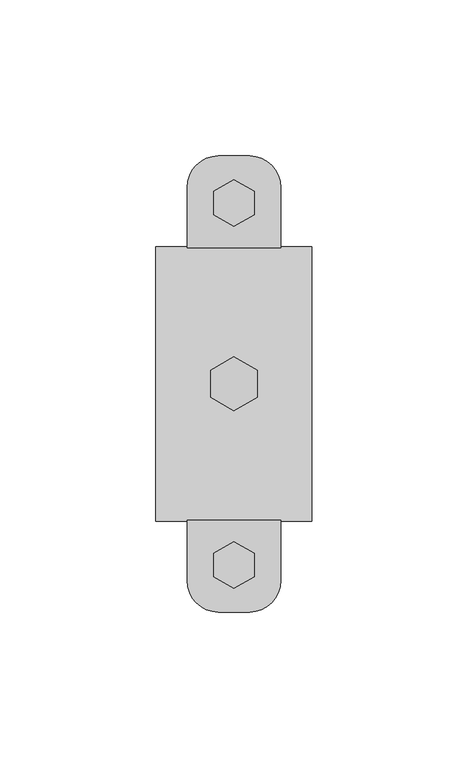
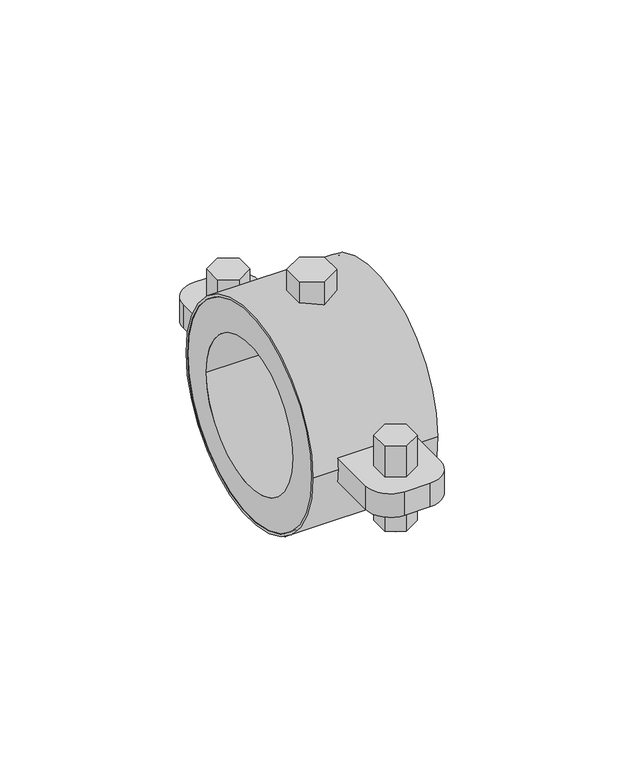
"""IFC4 building model written with IfcOpenShell, lengths in millimetres: pipe fitting geometry, СТ_Подвесы_ДляТруб_IsotermSM_D10-325_СимфонияТепла : Isoterm SMT 13-60."""

import ifcopenshell
import ifcopenshell.guid

model = None  # the IFC model being written
_history = None  # IfcOwnerHistory: only IFC2X3 demands one
_inside = {}  # id of a spatial element -> (the spatial element, [elements in it])
_under = {}  # id of a project, library or spatial element -> (it, [spatial elements below it])
_declared = {}  # id of a project -> (the project, [libraries it declares])
_typed = {}  # id of a type object -> (the type object, [elements of that type])
_made_of = {}  # id of a material, layer set ... -> (it, [elements and type objects made of it])


def new_model(schema):
    """Start an empty IFC model of exactly this schema.

    Asked for "IFC4X3", IfcOpenShell would pick the latest addendum, in which some entities
    have other attributes; the version numbers below select the first issue.
    IFC2X3 requires an IfcOwnerHistory on every rooted entity: one is made here for all.
    """
    global model, _history
    if schema == "IFC4X3":
        model = ifcopenshell.file(schema_version=(4, 3, 0, 0))
    else:
        model = ifcopenshell.file(schema=schema)
    _inside.clear()
    _under.clear()
    _declared.clear()
    _typed.clear()
    _made_of.clear()
    _history = None
    if model.schema == "IFC2X3":
        org = make("IfcOrganization", Name="unknown")
        user = make(
            "IfcPersonAndOrganization",
            ThePerson=make("IfcPerson", FamilyName="unknown"),
            TheOrganization=org,
        )
        app = make(
            "IfcApplication",
            ApplicationDeveloper=org,
            Version="unknown",
            ApplicationFullName="unknown",
            ApplicationIdentifier="unknown",
        )
        _history = make(
            "IfcOwnerHistory",
            OwningUser=user,
            OwningApplication=app,
            ChangeAction="ADDED",
            CreationDate=0,
        )
    return model


def make(cls, **values):
    """One entity of the class cls with the attributes given. An attribute that is None is left unset."""
    return model.create_entity(
        cls, **{name: value for name, value in values.items() if value is not None}
    )


def rooted(cls, **values):
    """An entity with a GlobalId (a new one), such as an element, a storey or a relation."""
    return make(cls, GlobalId=ifcopenshell.guid.new(), OwnerHistory=_history, **values)


def si_unit(unit_type, name, prefix=None):
    """IfcSIUnit, for example si_unit("LENGTHUNIT", "METRE", prefix="MILLI")."""
    return make("IfcSIUnit", UnitType=unit_type, Prefix=prefix, Name=name)


def assignment(units):
    """IfcUnitAssignment: the units of a project."""
    return None if units is None else make("IfcUnitAssignment", Units=units)


def point(xyz):
    """IfcCartesianPoint."""
    return None if xyz is None else make("IfcCartesianPoint", Coordinates=xyz)


def direction(xyz):
    """IfcDirection."""
    return None if xyz is None else make("IfcDirection", DirectionRatios=xyz)


def frame(location, z_axis=None, x_axis=None):
    """IfcAxis2Placement3D, a coordinate frame: its origin and axes. An axis left out is left unset."""
    return make(
        "IfcAxis2Placement3D",
        Location=point(location),
        Axis=direction(z_axis),
        RefDirection=direction(x_axis),
    )


def frame_2d(location, x_axis=None):
    """IfcAxis2Placement2D, a coordinate frame in the plane: its origin and x axis."""
    return make(
        "IfcAxis2Placement2D", Location=point(location), RefDirection=direction(x_axis)
    )


def origin():
    """The frame at (0, 0, 0) with its axes left unset."""
    return frame((0.0, 0.0, 0.0))


def origin_2d():
    """The frame at (0, 0) in the plane with its x axis left unset."""
    return frame_2d((0.0, 0.0))


def place(relative_to, where):
    """IfcLocalPlacement: puts the frame where relative to a parent placement (None: the world)."""
    return make(
        "IfcLocalPlacement", PlacementRelTo=relative_to, RelativePlacement=where
    )


def context(
    kind, dimensions, precision=None, world=None, true_north=None, identifier=None
):
    """IfcGeometricRepresentationContext, for example the 3D "Model" context."""
    return make(
        "IfcGeometricRepresentationContext",
        ContextIdentifier=identifier,
        ContextType=kind,
        CoordinateSpaceDimension=dimensions,
        Precision=precision,
        WorldCoordinateSystem=world,
        TrueNorth=true_north,
    )


def project(units=None, contexts=None):
    """IfcProject with its units and contexts."""
    return rooted(
        "IfcProject",
        Name="project",
        RepresentationContexts=contexts,
        UnitsInContext=assignment(units),
    )


def spatial(cls, under=None, at=None, **own):
    """A site, building, storey or space (cls), placed at a placement, below another one or the project."""
    s = rooted(cls, ObjectPlacement=at, **own)
    if under is not None:
        _under.setdefault(under.id(), (under, []))[1].append(s)
    return s


def polyline(points):
    """IfcPolyline through the points."""
    return make("IfcPolyline", Points=[point(p) for p in points])


def circle_curve(where, radius):
    """IfcCircle in the frame where."""
    return make("IfcCircle", Position=where, Radius=radius)


def trimmed(basis, trim1, trim2, sense, master):
    """IfcTrimmedCurve: the piece of a basis curve between two trims."""
    return make(
        "IfcTrimmedCurve",
        BasisCurve=basis,
        Trim1=trim1,
        Trim2=trim2,
        SenseAgreement=sense,
        MasterRepresentation=master,
    )


def segment(curve, same_sense, transition):
    """IfcCompositeCurveSegment."""
    return make(
        "IfcCompositeCurveSegment",
        Transition=transition,
        SameSense=same_sense,
        ParentCurve=curve,
    )


def composite_curve(segments, self_intersect=None):
    """IfcCompositeCurve: segments joined end to end."""
    return make("IfcCompositeCurve", Segments=segments, SelfIntersect=self_intersect)


def outline(outer, holes=None, kind="AREA"):
    """IfcArbitraryClosedProfileDef: a profile drawn as a closed curve; with holes, ...WithVoids."""
    if holes is None:
        return make("IfcArbitraryClosedProfileDef", ProfileType=kind, OuterCurve=outer)
    return make(
        "IfcArbitraryProfileDefWithVoids",
        ProfileType=kind,
        OuterCurve=outer,
        InnerCurves=holes,
    )


def extrude(swept, where, along, depth):
    """IfcExtrudedAreaSolid: the profile swept, set in the frame where, extruded along a direction by depth."""
    return make(
        "IfcExtrudedAreaSolid",
        SweptArea=swept,
        Position=where,
        ExtrudedDirection=direction(along),
        Depth=depth,
    )


def shape(context_of_items, identifier, shape_type, items):
    """IfcShapeRepresentation: the items that make up one representation, for example the "Body"."""
    return make(
        "IfcShapeRepresentation",
        ContextOfItems=context_of_items,
        RepresentationIdentifier=identifier,
        RepresentationType=shape_type,
        Items=items,
    )


def source(mapping_origin, context_of_items, identifier, shape_type, items):
    """IfcRepresentationMap: a shape defined once, which mapped items show again and again."""
    return make(
        "IfcRepresentationMap",
        MappingOrigin=mapping_origin,
        MappedRepresentation=shape(context_of_items, identifier, shape_type, items),
    )


def transform(
    local_origin,
    x_axis=None,
    y_axis=None,
    z_axis=None,
    scale=None,
    scale2=None,
    scale3=None,
    uniform=True,
):
    """IfcCartesianTransformationOperator3D, or its non-uniform kind. x_axis, y_axis, z_axis: its Axis1, 2, 3."""
    if uniform:
        return make(
            "IfcCartesianTransformationOperator3D",
            Axis1=direction(x_axis),
            Axis2=direction(y_axis),
            LocalOrigin=point(local_origin),
            Scale=scale,
            Axis3=direction(z_axis),
        )
    return make(
        "IfcCartesianTransformationOperator3DnonUniform",
        Axis1=direction(x_axis),
        Axis2=direction(y_axis),
        LocalOrigin=point(local_origin),
        Scale=scale,
        Axis3=direction(z_axis),
        Scale2=scale2,
        Scale3=scale3,
    )


def mapped(mapping_source, mapping_target):
    """IfcMappedItem: shows the shape of a source again, moved by a transform."""
    return make(
        "IfcMappedItem", MappingSource=mapping_source, MappingTarget=mapping_target
    )


def made_of(thing, what):
    """Note that an element or type object is made of a material, layer set ...; save() writes the relation."""
    if what is not None:
        _made_of.setdefault(what.id(), (what, []))[1].append(thing)
    return thing


def element(
    cls,
    number,
    at=None,
    inside=None,
    cuts=None,
    type_object=None,
    material=None,
    context=None,
    identifier="Body",
    shape_type=None,
    held_by="IfcProductDefinitionShape",
    body=None,
    shapes=None,
    **own,
):
    """One element of the class cls, such as IfcWall. Its Tag is "e" and its number.

    at: its placement. inside: the storey or other place that contains it. cuts: it is an
    opening in that element (IfcRelVoidsElement). A single representation is given by context,
    identifier, shape_type and body (its items); several are given by shapes. held_by: the class
    of the entity that holds the representations. save() writes the other relations.
    """
    e = rooted(cls, Tag="e%d" % number, ObjectPlacement=at, **own)
    if body is not None:
        shapes = [shape(context, identifier, shape_type, body)]
    if shapes is not None:
        e.Representation = make(held_by, Representations=shapes)
    if inside is not None:
        _inside.setdefault(inside.id(), (inside, []))[1].append(e)
    if cuts is not None:
        rooted(
            "IfcRelVoidsElement", RelatingBuildingElement=cuts, RelatedOpeningElement=e
        )
    if type_object is not None:
        _typed.setdefault(type_object.id(), (type_object, []))[1].append(e)
    return made_of(e, material)


def aggregate(whole, parts):
    """IfcRelAggregates: a whole, such as a stair, and the parts it consists of."""
    return rooted("IfcRelAggregates", RelatingObject=whole, RelatedObjects=parts)


def save(model, path):
    """Write the relations noted so far, then the file.

    IfcRelAggregates (storeys below a building ...), IfcRelContainedInSpatialStructure (elements
    in a storey), IfcRelDefinesByType, IfcRelAssociatesMaterial and IfcRelDeclares: one each for
    every whole, place, type object, material and project.
    """
    for whole, parts in _under.values():
        aggregate(whole, parts)
    for where, things in _inside.values():
        rooted(
            "IfcRelContainedInSpatialStructure",
            RelatedElements=things,
            RelatingStructure=where,
        )
    for kind, things in _typed.values():
        rooted("IfcRelDefinesByType", RelatedObjects=things, RelatingType=kind)
    for what, things in _made_of.values():
        rooted("IfcRelAssociatesMaterial", RelatedObjects=things, RelatingMaterial=what)
    for by, libraries in _declared.values():
        rooted("IfcRelDeclares", RelatingContext=by, RelatedDefinitions=libraries)
    model.write(path)


def plane_surface(at):
    """IfcPlane: the flat surface through the origin of the frame at, square to its z axis."""
    return make("IfcPlane", Position=at)


def cylinder_surface(at, radius):
    """IfcCylindricalSurface: all points at the distance radius from the z axis of the frame at."""
    return make("IfcCylindricalSurface", Position=at, Radius=radius)


def advanced_brep(points, edges, surfaces, faces):
    """IfcAdvancedBrep: a solid bounded by faces that lie on surfaces and meet in shared edges.

    An edge is (start, end): straight between two places in points (the first is 0);
    or (start, end, curve); or (start, end, curve, False) where it runs against its curve.
    A face is (place in surfaces, loops), or (place, loops, False) where it looks against
    its surface's normal. A loop lists edges by number (the first is 1), with a minus sign
    where the edge is run from its end to its start. The first loop is the outer one.
    """
    corners = [point(p) for p in points]
    vertices = [make("IfcVertexPoint", VertexGeometry=c) for c in corners]
    made = []
    for start, end, *more in edges:
        made.append(
            make(
                "IfcEdgeCurve",
                EdgeStart=vertices[start],
                EdgeEnd=vertices[end],
                EdgeGeometry=more[0] if more else make("IfcPolyline", Points=[corners[start], corners[end]]),
                SameSense=more[1] if len(more) > 1 else True,
            )
        )
    hull = []
    for where, loops, *sense in faces:
        bounds = []
        for j, loop in enumerate(loops):
            ring = [make("IfcOrientedEdge", EdgeElement=made[abs(k) - 1], Orientation=k > 0) for k in loop]
            bounds.append(
                make(
                    "IfcFaceOuterBound" if j == 0 else "IfcFaceBound",
                    Bound=make("IfcEdgeLoop", EdgeList=ring),
                    Orientation=True,
                )
            )
        hull.append(make("IfcAdvancedFace", Bounds=bounds, FaceSurface=surfaces[where], SameSense=sense[0] if sense else True))
    return make("IfcAdvancedBrep", Outer=make("IfcClosedShell", CfsFaces=hull))


def pipe_fitting_be9057e6(model_context):
    return source(origin(), model_context, "Body", "SolidModel", [
        extrude(outline(polyline([(6.5, 54.2972233), (0.0, 50.5444465), (-6.5, 54.2972233), (-6.5, 61.8027767), (0.0, 65.5555535), (6.5, 61.8027767), (6.5, 54.2972233)])), frame((0.0, 0.0, -18.0), z_axis=(0.0, 0.0, 1.0), x_axis=(1.0, 0.0, 0.0)), (0.0, 0.0, 1.0), 13.0),
        advanced_brep(
        [(-4.0, 58.05, -20.0), (4.0, 58.05, -20.0), (4.0, 58.05, 5.0), (-4.0, 58.05, 5.0), (6.5, 54.2972233, 18.0), (6.5, 61.8027767, 18.0), (0.0, 65.5555535, 18.0), (-6.5, 61.8027767, 18.0), (-6.5, 54.2972233, 18.0), (0.0, 50.5444465, 18.0), (6.5, 54.2972233, 5.0), (0.0, 50.5444465, 5.0), (-6.5, 54.2972233, 5.0), (-6.5, 61.8027767, 5.0), (0.0, 65.5555535, 5.0), (6.5, 61.8027767, 5.0)],
        [
            (0, 1, circle_curve(frame((0.0, 58.05, -20.0), z_axis=(0.0, 0.0, -1.0), x_axis=(1.0, 0.0, 0.0)), 4.0)),
            (1, 0, circle_curve(frame((0.0, 58.05, -20.0), z_axis=(0.0, 0.0, -1.0), x_axis=(1.0, 0.0, 0.0)), 4.0)),
            (1, 2),
            (2, 3, circle_curve(frame((0.0, 58.05, 5.0), z_axis=(0.0, 0.0, -1.0), x_axis=(1.0, 0.0, 0.0)), 4.0)),
            (3, 0),
            (3, 2, circle_curve(frame((0.0, 58.05, 5.0), z_axis=(0.0, 0.0, -1.0), x_axis=(1.0, 0.0, 0.0)), 4.0)),
            (4, 5),
            (5, 6),
            (6, 7),
            (7, 8),
            (8, 9),
            (9, 4),
            (10, 11),
            (11, 12),
            (12, 13),
            (13, 14),
            (14, 15),
            (15, 10),
            (4, 10),
            (15, 5),
            (14, 6),
            (13, 7),
            (12, 8),
            (11, 9),
        ],
        [
            plane_surface(frame((4.0, 58.05, -20.0), z_axis=(0.0, 0.0, -1.0), x_axis=(0.0, -1.0, 0.0))),
            cylinder_surface(frame((0.0, 58.05, -20.0), z_axis=(0.0, 0.0, 1.0), x_axis=(1.0, 0.0, 0.0)), 4.0),
            plane_surface(frame((6.5, 54.2972233, 18.0), z_axis=(0.0, 0.0, 1.0), x_axis=(0.0, 1.0, 0.0))),
            plane_surface(frame((6.5, 54.2972233, 5.0), z_axis=(0.0, 0.0, -1.0), x_axis=(0.0, -1.0, 0.0))),
            plane_surface(frame((6.5, 54.2972233, 18.0), z_axis=(1.0, 0.0, 0.0), x_axis=(0.0, 0.0, -1.0))),
            plane_surface(frame((6.5, 61.8027767, 18.0), z_axis=(0.5, 0.8660254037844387, 0.0), x_axis=(0.0, 0.0, -1.0))),
            plane_surface(frame((0.0, 65.5555535, 18.0), z_axis=(-0.5000000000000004, 0.8660254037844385, 0.0), x_axis=(0.0, 0.0, -1.0))),
            plane_surface(frame((-6.5, 61.8027767, 18.0), z_axis=(-1.0, 0.0, 0.0), x_axis=(0.0, 0.0, -1.0))),
            plane_surface(frame((-6.5, 54.2972233, 18.0), z_axis=(-0.500000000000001, -0.8660254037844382, 0.0), x_axis=(0.0, 0.0, -1.0))),
            plane_surface(frame((0.0, 50.5444465, 18.0), z_axis=(0.5000000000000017, -0.8660254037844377, 0.0), x_axis=(0.0, 0.0, -1.0))),
        ],
        [
            (0, [[1, 2]]),
            (1, [[-2, 3, 4, 5]]),
            (1, [[-1, -5, 6, -3]]),
            (2, [[7, 8, 9, 10, 11, 12]]),
            (3, [[13, 14, 15, 16, 17, 18], [-4, -6]]),
            (4, [[-7, 19, -18, 20]]),
            (5, [[-8, -20, -17, 21]]),
            (6, [[-9, -21, -16, 22]]),
            (7, [[-10, -22, -15, 23]]),
            (8, [[-11, -23, -14, 24]]),
            (9, [[-12, -24, -13, -19]]),
        ],
    ),
        extrude(outline(polyline([(6.5, -61.8027767), (0.0, -65.5555535), (-6.5, -61.8027767), (-6.5, -54.2972233), (0.0, -50.5444465), (6.5, -54.2972233), (6.5, -61.8027767)])), frame((0.0, 0.0, -18.0), z_axis=(0.0, 0.0, 1.0), x_axis=(1.0, 0.0, 0.0)), (0.0, 0.0, 1.0), 13.0),
        advanced_brep(
        [(-4.0, -58.05, -20.0), (4.0, -58.05, -20.0), (4.0, -58.05, 5.0), (-4.0, -58.05, 5.0), (6.5, -61.8027767, 18.0), (6.5, -54.2972233, 18.0), (0.0, -50.5444465, 18.0), (-6.5, -54.2972233, 18.0), (-6.5, -61.8027767, 18.0), (0.0, -65.5555535, 18.0), (6.5, -61.8027767, 5.0), (0.0, -65.5555535, 5.0), (-6.5, -61.8027767, 5.0), (-6.5, -54.2972233, 5.0), (0.0, -50.5444465, 5.0), (6.5, -54.2972233, 5.0)],
        [
            (0, 1, circle_curve(frame((0.0, -58.05, -20.0), z_axis=(0.0, 0.0, -1.0), x_axis=(1.0, 0.0, 0.0)), 4.0)),
            (1, 0, circle_curve(frame((0.0, -58.05, -20.0), z_axis=(0.0, 0.0, -1.0), x_axis=(1.0, 0.0, 0.0)), 4.0)),
            (1, 2),
            (2, 3, circle_curve(frame((0.0, -58.05, 5.0), z_axis=(0.0, 0.0, -1.0), x_axis=(1.0, 0.0, 0.0)), 4.0)),
            (3, 0),
            (3, 2, circle_curve(frame((0.0, -58.05, 5.0), z_axis=(0.0, 0.0, -1.0), x_axis=(1.0, 0.0, 0.0)), 4.0)),
            (4, 5),
            (5, 6),
            (6, 7),
            (7, 8),
            (8, 9),
            (9, 4),
            (10, 11),
            (11, 12),
            (12, 13),
            (13, 14),
            (14, 15),
            (15, 10),
            (4, 10),
            (15, 5),
            (14, 6),
            (13, 7),
            (12, 8),
            (11, 9),
        ],
        [
            plane_surface(frame((4.0, -58.05, -20.0), z_axis=(0.0, 0.0, -1.0), x_axis=(0.0, -1.0, 0.0))),
            cylinder_surface(frame((0.0, -58.05, -20.0), z_axis=(0.0, 0.0, 1.0), x_axis=(1.0, 0.0, 0.0)), 4.0),
            plane_surface(frame((6.5, -61.8027767, 18.0), z_axis=(0.0, 0.0, 1.0), x_axis=(0.0, 1.0, 0.0))),
            plane_surface(frame((6.5, -61.8027767, 5.0), z_axis=(0.0, 0.0, -1.0), x_axis=(0.0, -1.0, 0.0))),
            plane_surface(frame((6.5, -61.8027767, 18.0), z_axis=(1.0, 0.0, 0.0), x_axis=(0.0, 0.0, -1.0))),
            plane_surface(frame((6.5, -54.2972233, 18.0), z_axis=(0.5, 0.8660254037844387, 0.0), x_axis=(0.0, 0.0, -1.0))),
            plane_surface(frame((0.0, -50.5444465, 18.0), z_axis=(-0.5000000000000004, 0.8660254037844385, 0.0), x_axis=(0.0, 0.0, -1.0))),
            plane_surface(frame((-6.5, -54.2972233, 18.0), z_axis=(-1.0, 0.0, 0.0), x_axis=(0.0, 0.0, -1.0))),
            plane_surface(frame((-6.5, -61.8027767, 18.0), z_axis=(-0.500000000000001, -0.8660254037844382, 0.0), x_axis=(0.0, 0.0, -1.0))),
            plane_surface(frame((0.0, -65.5555535, 18.0), z_axis=(0.5000000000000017, -0.8660254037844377, 0.0), x_axis=(0.0, 0.0, -1.0))),
        ],
        [
            (0, [[1, 2]]),
            (1, [[-2, 3, 4, 5]]),
            (1, [[-1, -5, 6, -3]]),
            (2, [[7, 8, 9, 10, 11, 12]]),
            (3, [[13, 14, 15, 16, 17, 18], [-4, -6]]),
            (4, [[-7, 19, -18, 20]]),
            (5, [[-8, -20, -17, 21]]),
            (6, [[-9, -21, -16, 22]]),
            (7, [[-10, -22, -15, 23]]),
            (8, [[-11, -23, -14, 24]]),
            (9, [[-12, -24, -13, -19]]),
        ],
    ),
        extrude(outline(composite_curve([segment(trimmed(circle_curve(origin_2d(), 44.0), [point((-44.0, 0.0))], [point((44.0, 0.0))], False, "CARTESIAN"), True, "CONTINUOUS"), segment(trimmed(circle_curve(origin_2d(), 44.0), [point((44.0, 0.0))], [point((-44.0, 0.0))], False, "CARTESIAN"), True, "CONTINUOUS")], self_intersect=False), holes=[composite_curve([segment(trimmed(circle_curve(origin_2d(), 43.0), [point((-43.0, 0.0))], [point((43.0, 0.0))], True, "CARTESIAN"), True, "CONTINUOUS"), segment(trimmed(circle_curve(origin_2d(), 43.0), [point((43.0, 0.0))], [point((-43.0, 0.0))], True, "CARTESIAN"), True, "CONTINUOUS")], self_intersect=False)]), frame((-25.0, 0.0, 0.0), z_axis=(1.0, 0.0, 0.0), x_axis=(0.0, 1.0, 0.0)), (0.0, 0.0, 1.0), 50.0),
        extrude(outline(polyline([(7.5, -4.330127), (0.0, -8.660254), (-7.5, -4.330127), (-7.5, 4.330127), (0.0, 8.660254), (7.5, 4.330127), (7.5, -4.330127)])), frame((0.0, 0.0, 43.0), z_axis=(0.0, 0.0, 1.0), x_axis=(1.0, 0.0, 0.0)), (0.0, 0.0, 1.0), 10.0),
        extrude(outline(composite_curve([segment(trimmed(circle_curve(frame_2d((-5.0, 63.1)), 10.0), [point((-15.0, 63.1))], [point((-5.0, 73.1))], False, "CARTESIAN"), True, "CONTINUOUS"), segment(polyline([(-5.0, 73.1), (5.0, 73.1)]), True, "CONTINUOUS"), segment(trimmed(circle_curve(frame_2d((5.0, 63.1)), 10.0), [point((5.0, 73.1))], [point((15.0, 63.1))], False, "CARTESIAN"), True, "CONTINUOUS"), segment(polyline([(15.0, 63.1), (15.0, 43.0), (-15.0, 43.0), (-15.0, 63.1)]), True, "CONTINUOUS")], self_intersect=False)), frame((0.0, 0.0, -5.0), z_axis=(0.0, 0.0, 1.0), x_axis=(1.0, 0.0, 0.0)), (0.0, 0.0, 1.0), 10.0),
        extrude(outline(composite_curve([segment(polyline([(-15.0, -43.0), (15.0, -43.0), (15.0, -63.1)]), True, "CONTINUOUS"), segment(trimmed(circle_curve(frame_2d((5.0, -63.1)), 10.0), [point((15.0, -63.1))], [point((5.0, -73.1))], False, "CARTESIAN"), True, "CONTINUOUS"), segment(polyline([(5.0, -73.1), (-5.0, -73.1)]), True, "CONTINUOUS"), segment(trimmed(circle_curve(frame_2d((-5.0, -63.1)), 10.0), [point((-5.0, -73.1))], [point((-15.0, -63.1))], False, "CARTESIAN"), True, "CONTINUOUS"), segment(polyline([(-15.0, -63.1), (-15.0, -43.0)]), True, "CONTINUOUS")], self_intersect=False)), frame((0.0, 0.0, -5.0), z_axis=(0.0, 0.0, 1.0), x_axis=(1.0, 0.0, 0.0)), (0.0, 0.0, 1.0), 10.0),
        extrude(outline(composite_curve([segment(trimmed(circle_curve(origin_2d(), 43.0), [point((-43.0, 0.0))], [point((43.0, 0.0))], False, "CARTESIAN"), True, "CONTINUOUS"), segment(trimmed(circle_curve(origin_2d(), 43.0), [point((43.0, 0.0))], [point((-43.0, 0.0))], False, "CARTESIAN"), True, "CONTINUOUS")], self_intersect=False), holes=[composite_curve([segment(trimmed(circle_curve(origin_2d(), 30.0), [point((-30.0, 0.0))], [point((30.0, 0.0))], True, "CARTESIAN"), True, "CONTINUOUS"), segment(trimmed(circle_curve(origin_2d(), 30.0), [point((30.0, 0.0))], [point((-30.0, 0.0))], True, "CARTESIAN"), True, "CONTINUOUS")], self_intersect=False)]), frame((-25.0, 0.0, 0.0), z_axis=(1.0, 0.0, 0.0), x_axis=(0.0, 1.0, 0.0)), (0.0, 0.0, 1.0), 50.0),
    ])


if __name__ == "__main__":
    model = new_model("IFC4")
    model_context = context("Model", 3, world=origin())
    ifc_project = project(units=[si_unit("LENGTHUNIT", "METRE", prefix="MILLI")], contexts=[model_context])
    site = spatial("IfcSite", under=ifc_project)
    building = spatial("IfcBuilding", under=site)
    placement = place(None, origin())
    pipe_fitting_shape = pipe_fitting_be9057e6(model_context)
    element("IfcPipeFitting", 1, ObjectType="СТ_Подвесы_ДляТруб_IsotermSM_D10-325_СимфонияТепла : Isoterm SMT 13-60", at=placement, inside=building, context=model_context, shape_type="MappedRepresentation", body=[
        mapped(pipe_fitting_shape, transform((0.0, 0.0, 0.0), x_axis=(1.0, 0.0, 0.0), y_axis=(0.0, 1.0, 0.0), z_axis=(0.0, 0.0, 1.0))),
    ])
    save(model, "model.ifc")
